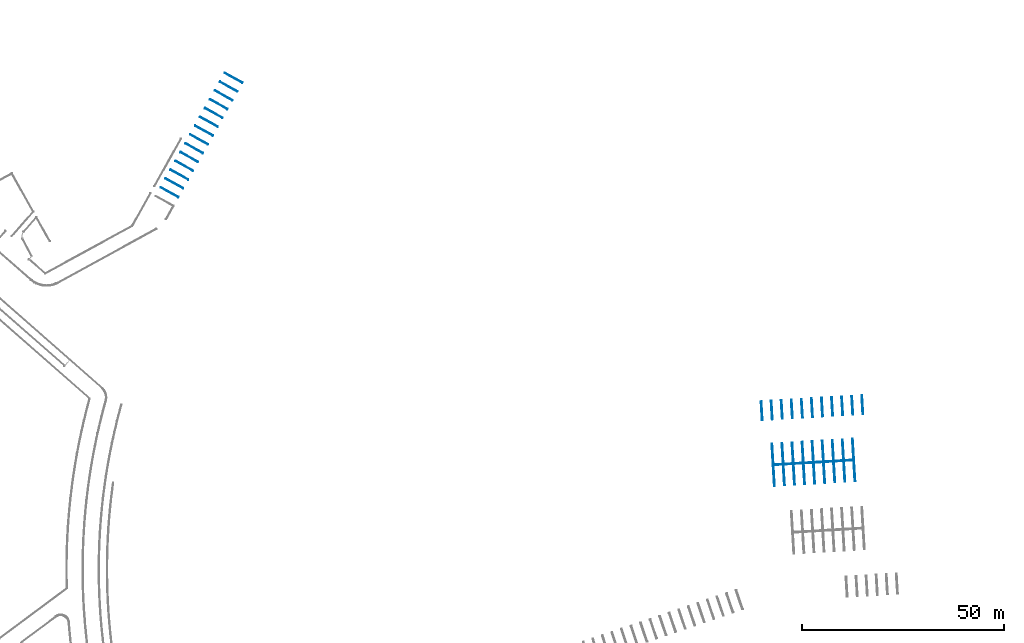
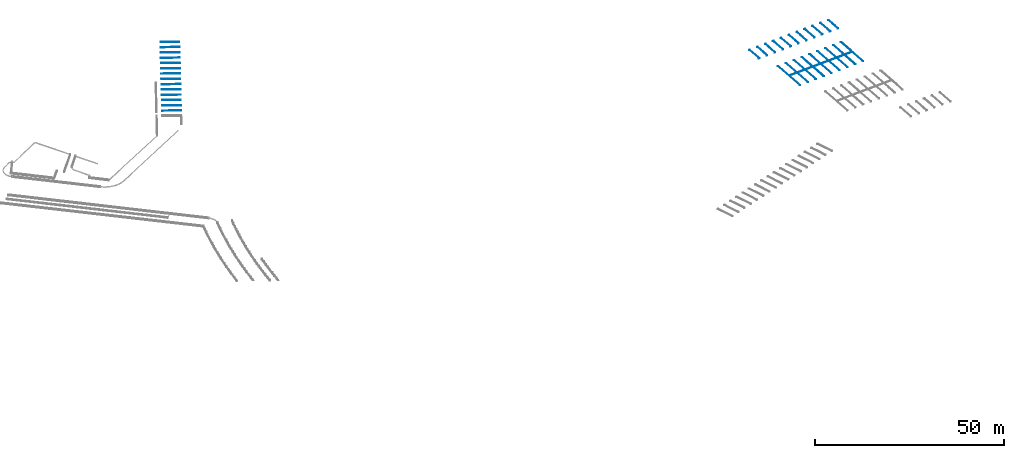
# One storey, part 14 of 24: 35 walls.
"""IFC2X3 building model written with IfcOpenShell, lengths in millimetres."""

import ifcopenshell
import ifcopenshell.guid

model = None  # the IFC model being written
_history = None  # IfcOwnerHistory: only IFC2X3 demands one
_inside = {}  # id of a spatial element -> (the spatial element, [elements in it])
_under = {}  # id of a project, library or spatial element -> (it, [spatial elements below it])
_declared = {}  # id of a project -> (the project, [libraries it declares])
_typed = {}  # id of a type object -> (the type object, [elements of that type])
_made_of = {}  # id of a material, layer set ... -> (it, [elements and type objects made of it])


def new_model(schema):
    """Start an empty IFC model of exactly this schema.

    Asked for "IFC4X3", IfcOpenShell would pick the latest addendum, in which some entities
    have other attributes; the version numbers below select the first issue.
    IFC2X3 requires an IfcOwnerHistory on every rooted entity: one is made here for all.
    """
    global model, _history
    if schema == "IFC4X3":
        model = ifcopenshell.file(schema_version=(4, 3, 0, 0))
    else:
        model = ifcopenshell.file(schema=schema)
    _inside.clear()
    _under.clear()
    _declared.clear()
    _typed.clear()
    _made_of.clear()
    _history = None
    if model.schema == "IFC2X3":
        org = make("IfcOrganization", Name="unknown")
        user = make(
            "IfcPersonAndOrganization",
            ThePerson=make("IfcPerson", FamilyName="unknown"),
            TheOrganization=org,
        )
        app = make(
            "IfcApplication",
            ApplicationDeveloper=org,
            Version="unknown",
            ApplicationFullName="unknown",
            ApplicationIdentifier="unknown",
        )
        _history = make(
            "IfcOwnerHistory",
            OwningUser=user,
            OwningApplication=app,
            ChangeAction="ADDED",
            CreationDate=0,
        )
    return model


def make(cls, **values):
    """One entity of the class cls with the attributes given. An attribute that is None is left unset."""
    return model.create_entity(
        cls, **{name: value for name, value in values.items() if value is not None}
    )


def entity(cls, *values):
    """Any entity or typed value of the class cls, its attributes in the order of the schema. None: left unset."""
    e = model.create_entity(cls)
    for i, value in enumerate(values):
        if value is not None:
            e[i] = value
    return e


def rooted(cls, **values):
    """An entity with a GlobalId (a new one), such as an element, a storey or a relation."""
    return make(cls, GlobalId=ifcopenshell.guid.new(), OwnerHistory=_history, **values)


def si_unit(unit_type, name, prefix=None):
    """IfcSIUnit, for example si_unit("LENGTHUNIT", "METRE", prefix="MILLI")."""
    return make("IfcSIUnit", UnitType=unit_type, Prefix=prefix, Name=name)


def converted_unit(unit_type, name, factor, base, dimensions=None, offset=None):
    """IfcConversionBasedUnit, such as the inch: factor (a typed value) times the base unit."""
    return make(
        "IfcConversionBasedUnit"
        if offset is None
        else "IfcConversionBasedUnitWithOffset",
        ConversionOffset=offset,
        Dimensions=None
        if dimensions is None
        else entity("IfcDimensionalExponents", *dimensions),
        UnitType=unit_type,
        Name=name,
        ConversionFactor=make(
            "IfcMeasureWithUnit", ValueComponent=factor, UnitComponent=base
        ),
    )


def derived_unit(unit_type, elements):
    """IfcDerivedUnit: a product of units, each with its exponent."""
    return make(
        "IfcDerivedUnit",
        Elements=[
            make("IfcDerivedUnitElement", Unit=unit, Exponent=power)
            for unit, power in elements
        ],
        UnitType=unit_type,
    )


def assignment(units):
    """IfcUnitAssignment: the units of a project."""
    return None if units is None else make("IfcUnitAssignment", Units=units)


def point(xyz):
    """IfcCartesianPoint."""
    return None if xyz is None else make("IfcCartesianPoint", Coordinates=xyz)


def direction(xyz):
    """IfcDirection."""
    return None if xyz is None else make("IfcDirection", DirectionRatios=xyz)


def frame(location, z_axis=None, x_axis=None):
    """IfcAxis2Placement3D, a coordinate frame: its origin and axes. An axis left out is left unset."""
    return make(
        "IfcAxis2Placement3D",
        Location=point(location),
        Axis=direction(z_axis),
        RefDirection=direction(x_axis),
    )


def frame_2d(location, x_axis=None):
    """IfcAxis2Placement2D, a coordinate frame in the plane: its origin and x axis."""
    return make(
        "IfcAxis2Placement2D", Location=point(location), RefDirection=direction(x_axis)
    )


def origin():
    """The frame at (0, 0, 0) with its axes left unset."""
    return frame((0.0, 0.0, 0.0))


def origin_2d_with_axis():
    """The frame at (0, 0) in the plane with the x axis (1, 0) written out."""
    return frame_2d((0.0, 0.0), x_axis=(1.0, 0.0))


def place(relative_to, where):
    """IfcLocalPlacement: puts the frame where relative to a parent placement (None: the world)."""
    return make(
        "IfcLocalPlacement", PlacementRelTo=relative_to, RelativePlacement=where
    )


def context(
    kind, dimensions, precision=None, world=None, true_north=None, identifier=None
):
    """IfcGeometricRepresentationContext, for example the 3D "Model" context."""
    return make(
        "IfcGeometricRepresentationContext",
        ContextIdentifier=identifier,
        ContextType=kind,
        CoordinateSpaceDimension=dimensions,
        Precision=precision,
        WorldCoordinateSystem=world,
        TrueNorth=true_north,
    )


def subcontext(parent, identifier, kind, view, scale=None):
    """IfcGeometricRepresentationSubContext, for example "Body" below "Model"."""
    return make(
        "IfcGeometricRepresentationSubContext",
        ContextIdentifier=identifier,
        ContextType=kind,
        ParentContext=parent,
        TargetScale=scale,
        TargetView=view,
    )


def project(units=None, contexts=None):
    """IfcProject with its units and contexts."""
    return rooted(
        "IfcProject",
        Name="project",
        RepresentationContexts=contexts,
        UnitsInContext=assignment(units),
    )


def spatial(cls, under=None, at=None, **own):
    """A site, building, storey or space (cls), placed at a placement, below another one or the project."""
    s = rooted(cls, ObjectPlacement=at, **own)
    if under is not None:
        _under.setdefault(under.id(), (under, []))[1].append(s)
    return s


def profile(cls, at=None, kind="AREA", **sizes):
    """A parametric profile (cls). Its sizes go by their IFC names, for example OverallWidth=200.0."""
    return make(cls, ProfileType=kind, Position=at, **sizes)


def rectangle(**sizes):
    """IfcRectangleProfileDef."""
    return profile("IfcRectangleProfileDef", **sizes)


def extrude(swept, where, along, depth):
    """IfcExtrudedAreaSolid: the profile swept, set in the frame where, extruded along a direction by depth."""
    return make(
        "IfcExtrudedAreaSolid",
        SweptArea=swept,
        Position=where,
        ExtrudedDirection=direction(along),
        Depth=depth,
    )


def shape(context_of_items, identifier, shape_type, items):
    """IfcShapeRepresentation: the items that make up one representation, for example the "Body"."""
    return make(
        "IfcShapeRepresentation",
        ContextOfItems=context_of_items,
        RepresentationIdentifier=identifier,
        RepresentationType=shape_type,
        Items=items,
    )


def material(Name=None, Category=None):
    """IfcMaterial."""
    return make("IfcMaterial", Name=Name, Category=Category)


def made_of(thing, what):
    """Note that an element or type object is made of a material, layer set ...; save() writes the relation."""
    if what is not None:
        _made_of.setdefault(what.id(), (what, []))[1].append(thing)
    return thing


def type_object(cls, material=None, **own):
    """A type object (cls), such as IfcWallType, which elements share."""
    return made_of(rooted(cls, **own), material)


def element(
    cls,
    number,
    at=None,
    inside=None,
    cuts=None,
    type_object=None,
    material=None,
    context=None,
    identifier="Body",
    shape_type=None,
    held_by="IfcProductDefinitionShape",
    body=None,
    shapes=None,
    **own,
):
    """One element of the class cls, such as IfcWall. Its Tag is "e" and its number.

    at: its placement. inside: the storey or other place that contains it. cuts: it is an
    opening in that element (IfcRelVoidsElement). A single representation is given by context,
    identifier, shape_type and body (its items); several are given by shapes. held_by: the class
    of the entity that holds the representations. save() writes the other relations.
    """
    e = rooted(cls, Tag="e%d" % number, ObjectPlacement=at, **own)
    if body is not None:
        shapes = [shape(context, identifier, shape_type, body)]
    if shapes is not None:
        e.Representation = make(held_by, Representations=shapes)
    if inside is not None:
        _inside.setdefault(inside.id(), (inside, []))[1].append(e)
    if cuts is not None:
        rooted(
            "IfcRelVoidsElement", RelatingBuildingElement=cuts, RelatedOpeningElement=e
        )
    if type_object is not None:
        _typed.setdefault(type_object.id(), (type_object, []))[1].append(e)
    return made_of(e, material)


def aggregate(whole, parts):
    """IfcRelAggregates: a whole, such as a stair, and the parts it consists of."""
    return rooted("IfcRelAggregates", RelatingObject=whole, RelatedObjects=parts)


def save(model, path):
    """Write the relations noted so far, then the file.

    IfcRelAggregates (storeys below a building ...), IfcRelContainedInSpatialStructure (elements
    in a storey), IfcRelDefinesByType, IfcRelAssociatesMaterial and IfcRelDeclares: one each for
    every whole, place, type object, material and project.
    """
    for whole, parts in _under.values():
        aggregate(whole, parts)
    for where, things in _inside.values():
        rooted(
            "IfcRelContainedInSpatialStructure",
            RelatedElements=things,
            RelatingStructure=where,
        )
    for kind, things in _typed.values():
        rooted("IfcRelDefinesByType", RelatedObjects=things, RelatingType=kind)
    for what, things in _made_of.values():
        rooted("IfcRelAssociatesMaterial", RelatedObjects=things, RelatingMaterial=what)
    for by, libraries in _declared.values():
        rooted("IfcRelDeclares", RelatingContext=by, RelatedDefinitions=libraries)
    model.write(path)


model = new_model("IFC2X3")

# Units and contexts
model_context = context("Model", 3, precision=0.01, world=origin(), true_north=direction((6.123031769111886e-17, 1.0)))
body_context = subcontext(model_context, "Body", "Model", "MODEL_VIEW")
ifc_project = project(units=[si_unit("LENGTHUNIT", "METRE", prefix="MILLI"), si_unit("AREAUNIT", "SQUARE_METRE"), si_unit("VOLUMEUNIT", "CUBIC_METRE"), converted_unit("PLANEANGLEUNIT", "DEGREE", entity("IfcRatioMeasure", 0.017453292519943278), si_unit("PLANEANGLEUNIT", "RADIAN"), dimensions=[0, 0, 0, 0, 0, 0, 0]), si_unit("MASSUNIT", "GRAM", prefix="KILO"), derived_unit("MASSDENSITYUNIT", [(si_unit("MASSUNIT", "GRAM", prefix="KILO"), 1), (si_unit("LENGTHUNIT", "METRE"), -3)]), derived_unit("MOMENTOFINERTIAUNIT", [(si_unit("LENGTHUNIT", "METRE"), 4)]), si_unit("TIMEUNIT", "SECOND"), si_unit("FREQUENCYUNIT", "HERTZ"), si_unit("THERMODYNAMICTEMPERATUREUNIT", "DEGREE_CELSIUS"), derived_unit("THERMALTRANSMITTANCEUNIT", [(si_unit("MASSUNIT", "GRAM", prefix="KILO"), 1), (si_unit("THERMODYNAMICTEMPERATUREUNIT", "KELVIN"), -1), (si_unit("TIMEUNIT", "SECOND"), -3)]), derived_unit("THERMALCONDUCTANCEUNIT", [(si_unit("MASSUNIT", "GRAM", prefix="KILO"), 1), (si_unit("LENGTHUNIT", "METRE"), 1), (si_unit("THERMODYNAMICTEMPERATUREUNIT", "KELVIN"), -1), (si_unit("TIMEUNIT", "SECOND"), -3)]), derived_unit("VOLUMETRICFLOWRATEUNIT", [(si_unit("LENGTHUNIT", "METRE"), 3), (si_unit("TIMEUNIT", "SECOND"), -1)]), derived_unit("MASSFLOWRATEUNIT", [(si_unit("MASSUNIT", "GRAM", prefix="KILO"), 1), (si_unit("TIMEUNIT", "SECOND"), -1)]), derived_unit("ROTATIONALFREQUENCYUNIT", [(si_unit("TIMEUNIT", "SECOND"), -1)]), si_unit("ELECTRICCURRENTUNIT", "AMPERE"), si_unit("ELECTRICVOLTAGEUNIT", "VOLT"), si_unit("POWERUNIT", "WATT"), converted_unit("FORCEUNIT", "KIP", entity("IfcRatioMeasure", 2.088543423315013e-05), si_unit("FORCEUNIT", "NEWTON"), dimensions=[1, 1, -2, 0, 0, 0, 0]), si_unit("ILLUMINANCEUNIT", "LUX"), si_unit("LUMINOUSFLUXUNIT", "LUMEN"), si_unit("LUMINOUSINTENSITYUNIT", "CANDELA"), derived_unit("USERDEFINED", [(si_unit("MASSUNIT", "GRAM", prefix="KILO"), -1), (si_unit("LENGTHUNIT", "METRE"), -2), (si_unit("TIMEUNIT", "SECOND"), 3), (si_unit("LUMINOUSFLUXUNIT", "LUMEN"), 1)]), derived_unit("USERDEFINED", [(si_unit("MASSUNIT", "GRAM", prefix="KILO"), 1), (si_unit("LENGTHUNIT", "METRE"), 3), (si_unit("TIMEUNIT", "SECOND"), -3), (si_unit("ELECTRICCURRENTUNIT", "AMPERE"), -2)]), derived_unit("USERDEFINED", [(si_unit("LENGTHUNIT", "METRE"), 2), (si_unit("TIMEUNIT", "SECOND"), -2)]), derived_unit("SOUNDPOWERUNIT", [(si_unit("MASSUNIT", "GRAM", prefix="KILO"), 1), (si_unit("LENGTHUNIT", "METRE"), 2), (si_unit("TIMEUNIT", "SECOND"), -3)]), derived_unit("SOUNDPRESSUREUNIT", [(si_unit("MASSUNIT", "GRAM", prefix="KILO"), 1), (si_unit("LENGTHUNIT", "METRE"), -1), (si_unit("TIMEUNIT", "SECOND"), -2)]), derived_unit("LINEARVELOCITYUNIT", [(si_unit("LENGTHUNIT", "METRE"), 1), (si_unit("TIMEUNIT", "SECOND"), -1)]), si_unit("PRESSUREUNIT", "PASCAL"), derived_unit("USERDEFINED", [(si_unit("LENGTHUNIT", "METRE"), -2), (si_unit("MASSUNIT", "GRAM", prefix="KILO"), 1), (si_unit("TIMEUNIT", "SECOND"), -2)]), derived_unit("LINEARFORCEUNIT", [(si_unit("MASSUNIT", "GRAM", prefix="KILO"), 1), (si_unit("LENGTHUNIT", "METRE"), 1), (si_unit("TIMEUNIT", "SECOND"), -2), (si_unit("LENGTHUNIT", "METRE"), -1)]), derived_unit("PLANARFORCEUNIT", [(si_unit("MASSUNIT", "GRAM", prefix="KILO"), 1), (si_unit("LENGTHUNIT", "METRE"), 1), (si_unit("TIMEUNIT", "SECOND"), -2), (si_unit("LENGTHUNIT", "METRE"), -2)]), derived_unit("SPECIFICHEATCAPACITYUNIT", [(si_unit("LENGTHUNIT", "METRE"), 2), (si_unit("TIMEUNIT", "SECOND"), -2), (si_unit("THERMODYNAMICTEMPERATUREUNIT", "KELVIN"), -1)]), derived_unit("VAPORPERMEABILITYUNIT", [(si_unit("TIMEUNIT", "SECOND"), 1), (si_unit("LENGTHUNIT", "METRE"), -1)]), derived_unit("DYNAMICVISCOSITYUNIT", [(si_unit("MASSUNIT", "GRAM", prefix="KILO"), 1), (si_unit("LENGTHUNIT", "METRE"), -1), (si_unit("TIMEUNIT", "SECOND"), -1)]), derived_unit("THERMALEXPANSIONCOEFFICIENTUNIT", [(si_unit("THERMODYNAMICTEMPERATUREUNIT", "KELVIN"), -1)])], contexts=[model_context])

# Site, building, storey
site_placement = place(None, frame((0.0, 0.0, 0.0), z_axis=(0.0, 0.0, 1.0), x_axis=(0.8191520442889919, 0.5735764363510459, 0.0)))
site = spatial("IfcSite", under=ifc_project, at=site_placement, Name="Default", CompositionType="ELEMENT")
building_placement = place(site_placement, origin())
building = spatial("IfcBuilding", under=site, at=building_placement, CompositionType="ELEMENT")
storey_placement = place(building_placement, frame((0.0, 0.0, -1150.0)))
storey = spatial("IfcBuildingStorey", under=building, at=storey_placement, Name="6.EG KH -1.15", CompositionType="ELEMENT", Elevation=-1150.0000000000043)

# Walls
ifc_material = material(Name="road_markirovka")
wall_type_1 = type_object("IfcWallType", Name="05", PredefinedType="NOTDEFINED", material=ifc_material)
wall_1_placement = place(storey_placement, frame((-55568.09322253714, 154215.36683652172, 240.0), z_axis=(0.0, 0.0, 1.0), x_axis=(0.0, 1.0, 0.0)))
element("IfcWall", 1, at=wall_1_placement, inside=storey, type_object=wall_type_1, material=ifc_material, Name="05:05", ObjectType="05:05", context=body_context, shape_type="SweptSolid", body=[
    extrude(rectangle(XDim=200.00000000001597, YDim=5000.000000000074, at=frame_2d((-7.645439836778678e-12, -5.9117155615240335e-12), x_axis=(1.0, 0.0))), frame((2294.368159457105, -1178.003194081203, 0.0), z_axis=(0.0, 0.0, 1.0), x_axis=(-0.4351876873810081, 0.900339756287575, 0.0)), (0.0, 0.0, 1.0), 9.999999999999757),
])
wall_type_2 = type_object("IfcWallType", Name="05", PredefinedType="NOTDEFINED", material=ifc_material)
wall_2_placement = place(storey_placement, frame((-60069.79200397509, 152039.42839961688, 330.0), z_axis=(0.0, 0.0, 1.0), x_axis=(0.0, 1.0, 0.0)))
element("IfcWall", 2, at=wall_2_placement, inside=storey, type_object=wall_type_2, material=ifc_material, Name="05 203250:05 203250", ObjectType="05 203250:05 203250", context=body_context, shape_type="SweptSolid", body=[
    extrude(rectangle(XDim=200.00000000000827, YDim=5000.000000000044, at=frame_2d((-7.716494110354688e-12, -5.9117155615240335e-12), x_axis=(1.0, 0.0))), frame((2294.3681594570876, -1178.0031940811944, 0.0), z_axis=(0.0, 0.0, 1.0), x_axis=(-0.4351876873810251, 0.9003397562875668, 0.0)), (0.0, 0.0, 1.0), 9.999999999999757),
])
wall_type_3 = type_object("IfcWallType", Name="05", PredefinedType="NOTDEFINED", material=ifc_material)
wall_3_placement = place(storey_placement, frame((-66822.34017613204, 148775.52074425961, 450.0), z_axis=(0.0, 0.0, 1.0), x_axis=(0.0, 1.0, 0.0)))
element("IfcWall", 3, at=wall_3_placement, inside=storey, type_object=wall_type_3, material=ifc_material, Name="05 203252:05 203252", ObjectType="05 203252:05 203252", context=body_context, shape_type="SweptSolid", body=[
    extrude(rectangle(XDim=199.99999999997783, YDim=5000.000000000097, at=frame_2d((1.1439738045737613e-11, 1.3415046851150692e-11), x_axis=(1.0, 0.0))), frame((2294.3681594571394, -1178.003194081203, 0.0), z_axis=(0.0, 0.0, 1.0), x_axis=(-0.43518768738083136, 0.9003397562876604, 0.0)), (0.0, 0.0, 1.0), 9.999999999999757),
])
wall_type_4 = type_object("IfcWallType", Name="05", PredefinedType="NOTDEFINED", material=ifc_material)
wall_4_placement = place(storey_placement, frame((-57818.94261325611, 153127.39761806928, 295.0), z_axis=(0.0, 0.0, 1.0), x_axis=(0.0, 1.0, 0.0)))
element("IfcWall", 4, at=wall_4_placement, inside=storey, type_object=wall_type_4, material=ifc_material, Name="05 203253:05 203253", ObjectType="05 203253:05 203253", context=body_context, shape_type="SweptSolid", body=[
    extrude(rectangle(XDim=199.9999999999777, YDim=5000.000000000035, at=frame_2d((7.510436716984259e-12, 1.546140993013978e-11), x_axis=(1.0, 0.0))), frame((2294.368159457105, -1178.0031940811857, 0.0), z_axis=(0.0, 0.0, 1.0), x_axis=(-0.4351876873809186, 0.9003397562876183, 0.0)), (0.0, 0.0, 1.0), 9.999999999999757),
])
wall_type_5 = type_object("IfcWallType", Name="05", PredefinedType="NOTDEFINED", material=ifc_material)
wall_5_placement = place(storey_placement, frame((-64571.49078541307, 149863.48996271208, 420.0), z_axis=(0.0, 0.0, 1.0), x_axis=(0.0, 1.0, 0.0)))
element("IfcWall", 5, at=wall_5_placement, inside=storey, type_object=wall_type_5, material=ifc_material, Name="05 203255:05 203255", ObjectType="05 203255:05 203255", context=body_context, shape_type="SweptSolid", body=[
    extrude(rectangle(XDim=199.9999999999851, YDim=5000.000000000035, at=frame_2d((1.3500311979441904e-13, -9.777068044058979e-12), x_axis=(1.0, 0.0))), frame((2294.3681594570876, -1178.0031940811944, 0.0), z_axis=(0.0, 0.0, 1.0), x_axis=(-0.4351876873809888, 0.9003397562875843, 0.0)), (0.0, 0.0, 1.0), 9.999999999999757),
])
wall_type_6 = type_object("IfcWallType", Name="05", PredefinedType="NOTDEFINED", material=ifc_material)
wall_6_placement = place(storey_placement, frame((-53317.24383181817, 155303.3360549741, 205.0), z_axis=(0.0, 0.0, 1.0), x_axis=(0.0, 1.0, 0.0)))
element("IfcWall", 6, at=wall_6_placement, inside=storey, type_object=wall_type_6, material=ifc_material, Name="05 203257:05 203257", ObjectType="05 203257:05 203257", context=body_context, shape_type="SweptSolid", body=[
    extrude(rectangle(XDim=200.00000000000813, YDim=5000.000000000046, at=frame_2d((3.723243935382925e-12, 1.7280399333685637e-11), x_axis=(1.0, 0.0))), frame((2294.368159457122, -1178.003194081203, 0.0), z_axis=(0.0, 0.0, 1.0), x_axis=(-0.4351876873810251, 0.9003397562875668, 0.0)), (0.0, 0.0, 1.0), 9.999999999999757),
])
wall_type_7 = type_object("IfcWallType", Name="05", PredefinedType="NOTDEFINED", material=ifc_material)
wall_7_placement = place(storey_placement, frame((-62320.641394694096, 150951.45918116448, 365.0), z_axis=(0.0, 0.0, 1.0), x_axis=(0.0, 1.0, 0.0)))
element("IfcWall", 7, at=wall_7_placement, inside=storey, type_object=wall_type_7, material=ifc_material, Name="05 203261:05 203261", ObjectType="05 203261:05 203261", context=body_context, shape_type="SweptSolid", body=[
    extrude(rectangle(XDim=200.00000000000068, YDim=5000.000000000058, at=frame_2d((3.929301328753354e-12, -1.8189894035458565e-12), x_axis=(1.0, 0.0))), frame((2294.368159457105, -1178.003194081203, 0.0), z_axis=(0.0, 0.0, 1.0), x_axis=(-0.43518768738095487, 0.9003397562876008, 0.0)), (0.0, 0.0, 1.0), 9.999999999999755),
])
wall_type_8 = type_object("IfcWallType", Name="06", PredefinedType="NOTDEFINED", material=ifc_material)
wall_8_placement = place(storey_placement, frame((43548.62154374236, 7412.608353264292, 150.0), z_axis=(0.0, 0.0, 1.0), x_axis=(0.0, 1.0, 0.0)))
element("IfcWall", 8, at=wall_8_placement, inside=storey, type_object=wall_type_8, material=ifc_material, Name="06 203730:06 203730", ObjectType="06 203730:06 203730", context=body_context, shape_type="SweptSolid", body=[
    extrude(rectangle(XDim=200.0000000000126, YDim=4629.2546086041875, at=frame_2d((-2.7000623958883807e-13, 6.821210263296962e-13), x_axis=(1.0, 0.0))), frame((2024.625016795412, -1296.6489613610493, 0.0), z_axis=(0.0, 0.0, 1.0), x_axis=(0.5233841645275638, 0.8520968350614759, 0.0)), (0.0, 0.0, 1.0), 9.999999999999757),
])
wall_type_9 = type_object("IfcWallType", Name="06", PredefinedType="NOTDEFINED", material=ifc_material)
wall_9_placement = place(storey_placement, frame((41418.3794560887, 8721.068764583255, 150.0), z_axis=(0.0, 0.0, 1.0), x_axis=(0.0, 1.0, 0.0)))
element("IfcWall", 9, at=wall_9_placement, inside=storey, type_object=wall_type_9, material=ifc_material, Name="06 203731:06 203731", ObjectType="06 203731:06 203731", context=body_context, shape_type="SweptSolid", body=[
    extrude(rectangle(XDim=200.0000000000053, YDim=4629.2546086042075, at=origin_2d_with_axis()), frame((2024.6250167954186, -1296.6489613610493, 0.0), z_axis=(0.0, 0.0, 1.0), x_axis=(0.5233841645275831, 0.852096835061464, 0.0)), (0.0, 0.0, 1.0), 9.999999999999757),
])
wall_type_10 = type_object("IfcWallType", Name="06", PredefinedType="NOTDEFINED", material=ifc_material)
wall_10_placement = place(storey_placement, frame((37157.8952807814, 11337.989587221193, 150.0), z_axis=(0.0, 0.0, 1.0), x_axis=(0.0, 1.0, 0.0)))
element("IfcWall", 10, at=wall_10_placement, inside=storey, type_object=wall_type_10, material=ifc_material, Name="06 203736:06 203736", ObjectType="06 203736:06 203736", context=body_context, shape_type="SweptSolid", body=[
    extrude(rectangle(XDim=199.99999999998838, YDim=4629.254608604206, at=frame_2d((4.263256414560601e-12, 1.3642420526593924e-12), x_axis=(1.0, 0.0))), frame((2024.6250167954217, -1296.6489613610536, 0.0), z_axis=(0.0, 0.0, 1.0), x_axis=(0.523384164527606, 0.8520968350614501, 0.0)), (0.0, 0.0, 1.0), 9.999999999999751),
])
wall_type_11 = type_object("IfcWallType", Name="06", PredefinedType="NOTDEFINED", material=ifc_material)
wall_11_placement = place(storey_placement, frame((39288.13736843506, 10029.52917590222, 150.0), z_axis=(0.0, 0.0, 1.0), x_axis=(0.0, 1.0, 0.0)))
element("IfcWall", 11, at=wall_11_placement, inside=storey, type_object=wall_type_11, material=ifc_material, Name="06 203738:06 203738", ObjectType="06 203738:06 203738", context=body_context, shape_type="SweptSolid", body=[
    extrude(rectangle(XDim=199.99999999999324, YDim=4629.2546086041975, at=frame_2d((1.1510792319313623e-12, -1.8189894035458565e-12), x_axis=(1.0, 0.0))), frame((2024.6250167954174, -1296.6489613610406, 0.0), z_axis=(0.0, 0.0, 1.0), x_axis=(0.523384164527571, 0.8520968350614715, 0.0)), (0.0, 0.0, 1.0), 9.999999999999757),
])
wall_type_12 = type_object("IfcWallType", Name="06", PredefinedType="NOTDEFINED", material=ifc_material)
wall_12_placement = place(storey_placement, frame((35027.65319312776, 12646.44999854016, 150.0), z_axis=(0.0, 0.0, 1.0), x_axis=(0.0, 1.0, 0.0)))
element("IfcWall", 12, at=wall_12_placement, inside=storey, type_object=wall_type_12, material=ifc_material, Name="06 203739:06 203739", ObjectType="06 203739:06 203739", context=body_context, shape_type="SweptSolid", body=[
    extrude(rectangle(XDim=199.99999999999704, YDim=4629.2546086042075, at=frame_2d((-1.2860823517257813e-12, -2.2737367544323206e-12), x_axis=(1.0, 0.0))), frame((2024.6250167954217, -1296.648961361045, 0.0), z_axis=(0.0, 0.0, 1.0), x_axis=(0.5233841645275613, 0.8520968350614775, 0.0)), (0.0, 0.0, 1.0), 9.999999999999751),
])
wall_type_13 = type_object("IfcWallType", Name="06", PredefinedType="NOTDEFINED", material=ifc_material)
wall_13_placement = place(storey_placement, frame((32897.41110547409, 13954.91040985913, 150.0), z_axis=(0.0, 0.0, 1.0), x_axis=(0.0, 1.0, 0.0)))
element("IfcWall", 13, at=wall_13_placement, inside=storey, type_object=wall_type_13, material=ifc_material, Name="06 203742:06 203742", ObjectType="06 203742:06 203742", context=body_context, shape_type="SweptSolid", body=[
    extrude(rectangle(XDim=200.0000000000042, YDim=4629.254608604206, at=frame_2d((-2.4371615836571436e-12, 0.0), x_axis=(1.0, 0.0))), frame((2024.6250167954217, -1296.648961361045, 0.0), z_axis=(0.0, 0.0, 1.0), x_axis=(0.5233841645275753, 0.8520968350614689, 0.0)), (0.0, 0.0, 1.0), 9.999999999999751),
])
wall_type_14 = type_object("IfcWallType", Name="06", PredefinedType="NOTDEFINED", material=ifc_material)
wall_14_placement = place(storey_placement, frame((28636.926930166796, 16571.83123249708, 150.0), z_axis=(0.0, 0.0, 1.0), x_axis=(0.0, 1.0, 0.0)))
element("IfcWall", 14, at=wall_14_placement, inside=storey, type_object=wall_type_14, material=ifc_material, Name="06 203743:06 203743", ObjectType="06 203743:06 203743", context=body_context, shape_type="SweptSolid", body=[
    extrude(rectangle(XDim=200.00000000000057, YDim=4629.254608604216, at=frame_2d((2.3661073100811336e-12, 4.547473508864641e-13), x_axis=(1.0, 0.0))), frame((2024.625016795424, -1296.6489613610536, 0.0), z_axis=(0.0, 0.0, 1.0), x_axis=(0.5233841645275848, 0.8520968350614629, 0.0)), (0.0, 0.0, 1.0), 9.999999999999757),
])
wall_type_15 = type_object("IfcWallType", Name="06", PredefinedType="NOTDEFINED", material=ifc_material)
wall_15_placement = place(storey_placement, frame((26506.684842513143, 17880.291643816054, 150.0), z_axis=(0.0, 0.0, 1.0), x_axis=(0.0, 1.0, 0.0)))
element("IfcWall", 15, at=wall_15_placement, inside=storey, type_object=wall_type_15, material=ifc_material, Name="06 203748:06 203748", ObjectType="06 203748:06 203748", context=body_context, shape_type="SweptSolid", body=[
    extrude(rectangle(XDim=200.00000000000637, YDim=4629.254608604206, at=frame_2d((-3.0482283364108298e-12, 6.821210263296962e-13), x_axis=(1.0, 0.0))), frame((2024.6250167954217, -1296.648961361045, 0.0), z_axis=(0.0, 0.0, 1.0), x_axis=(0.523384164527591, 0.8520968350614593, 0.0)), (0.0, 0.0, 1.0), 9.999999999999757),
])
wall_type_16 = type_object("IfcWallType", Name="06", PredefinedType="NOTDEFINED", material=ifc_material)
wall_16_placement = place(storey_placement, frame((30767.169017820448, 15263.370821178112, 150.0), z_axis=(0.0, 0.0, 1.0), x_axis=(0.0, 1.0, 0.0)))
element("IfcWall", 16, at=wall_16_placement, inside=storey, type_object=wall_type_16, material=ifc_material, Name="06 203749:06 203749", ObjectType="06 203749:06 203749", context=body_context, shape_type="SweptSolid", body=[
    extrude(rectangle(XDim=200.0000000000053, YDim=4629.254608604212, at=frame_2d((-3.112177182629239e-12, -3.183231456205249e-12), x_axis=(1.0, 0.0))), frame((2024.6250167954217, -1296.648961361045, 0.0), z_axis=(0.0, 0.0, 1.0), x_axis=(0.5233841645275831, 0.852096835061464, 0.0)), (0.0, 0.0, 1.0), 9.999999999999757),
])
wall_type_17 = type_object("IfcWallType", Name="06", PredefinedType="NOTDEFINED", material=ifc_material)
wall_17_placement = place(storey_placement, frame((24376.442754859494, 19188.752055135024, 150.0), z_axis=(0.0, 0.0, 1.0), x_axis=(0.0, 1.0, 0.0)))
element("IfcWall", 17, at=wall_17_placement, inside=storey, type_object=wall_type_17, material=ifc_material, Name="06 203750:06 203750", ObjectType="06 203750:06 203750", context=body_context, shape_type="SweptSolid", body=[
    extrude(rectangle(XDim=200.00000000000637, YDim=4629.254608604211, at=frame_2d((-5.400124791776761e-13, 1.1368683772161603e-12), x_axis=(1.0, 0.0))), frame((2024.625016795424, -1296.6489613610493, 0.0), z_axis=(0.0, 0.0, 1.0), x_axis=(0.523384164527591, 0.8520968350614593, 0.0)), (0.0, 0.0, 1.0), 9.999999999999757),
])
wall_type_18 = type_object("IfcWallType", Name="06", PredefinedType="NOTDEFINED", material=ifc_material)
wall_18_placement = place(storey_placement, frame((22246.200667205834, 20497.21246645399, 150.0), z_axis=(0.0, 0.0, 1.0), x_axis=(0.0, 1.0, 0.0)))
element("IfcWall", 18, at=wall_18_placement, inside=storey, type_object=wall_type_18, material=ifc_material, Name="06 203753:06 203753", ObjectType="06 203753:06 203753", context=body_context, shape_type="SweptSolid", body=[
    extrude(rectangle(XDim=200.0000000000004, YDim=4629.254608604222, at=origin_2d_with_axis()), frame((2024.625016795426, -1296.6489613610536, 0.0), z_axis=(0.0, 0.0, 1.0), x_axis=(0.5233841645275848, 0.8520968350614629, 0.0)), (0.0, 0.0, 1.0), 9.999999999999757),
])
wall_type_19 = type_object("IfcWallType", Name="04", PredefinedType="NOTDEFINED", material=ifc_material)
wall_19_placement = place(storey_placement, frame((18183.11532438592, -605.7176694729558, 350.0)))
element("IfcWall", 19, at=wall_19_placement, inside=storey, type_object=wall_type_19, material=ifc_material, Name="04 203756:04 203756", ObjectType="04 203756:04 203756", context=body_context, shape_type="SweptSolid", body=[
    extrude(rectangle(XDim=200.00000000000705, YDim=19800.000000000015, at=frame_2d((-4.32720526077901e-12, -9.094947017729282e-13), x_axis=(1.0, 0.0))), frame((8520.968350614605, 5266.712912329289, 0.0), z_axis=(0.0, 0.0, 1.0), x_axis=(0.5233841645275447, 0.8520968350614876, 0.0)), (0.0, 0.0, 1.0), 9.999999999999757),
])
wall_type_20 = type_object("IfcWallType", Name="04", PredefinedType="NOTDEFINED", material=ifc_material)
wall_20_placement = place(storey_placement, frame((15350.138777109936, 5368.990087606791, 350.0), z_axis=(0.0, 0.0, 1.0), x_axis=(0.0, 1.0, 0.0)))
element("IfcWall", 20, at=wall_20_placement, inside=storey, type_object=wall_type_20, material=ifc_material, Name="04 203757:04 203757", ObjectType="04 203757:04 203757", context=body_context, shape_type="SweptSolid", body=[
    extrude(rectangle(XDim=200.0000000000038, YDim=10500.000000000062, at=frame_2d((-2.9771740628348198e-12, 9.094947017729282e-13), x_axis=(1.0, 0.0))), frame((4525.8468005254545, -2832.976547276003, 0.0), z_axis=(0.0, 0.0, 1.0), x_axis=(0.5233841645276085, 0.8520968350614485, 0.0)), (0.0, 0.0, 1.0), 9.999999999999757),
])
wall_type_21 = type_object("IfcWallType", Name="04", PredefinedType="NOTDEFINED", material=ifc_material)
wall_21_placement = place(storey_placement, frame((30261.833390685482, -3790.232791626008, 350.0), z_axis=(0.0, 0.0, 1.0), x_axis=(0.0, 1.0, 0.0)))
element("IfcWall", 21, at=wall_21_placement, inside=storey, type_object=wall_type_21, material=ifc_material, Name="04 203776:04 203776", ObjectType="04 203776:04 203776", context=body_context, shape_type="SweptSolid", body=[
    extrude(rectangle(XDim=200.00000000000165, YDim=10500.000000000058, at=frame_2d((1.8971491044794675e-12, 9.094947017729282e-13), x_axis=(1.0, 0.0))), frame((4525.846800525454, -2832.976547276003, 0.0), z_axis=(0.0, 0.0, 1.0), x_axis=(0.5233841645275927, 0.8520968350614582, 0.0)), (0.0, 0.0, 1.0), 9.999999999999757),
])
wall_type_22 = type_object("IfcWallType", Name="04", PredefinedType="NOTDEFINED", material=ifc_material)
wall_22_placement = place(storey_placement, frame((28131.591303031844, -2481.772380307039, 350.0), z_axis=(0.0, 0.0, 1.0), x_axis=(0.0, 1.0, 0.0)))
element("IfcWall", 22, at=wall_22_placement, inside=storey, type_object=wall_type_22, material=ifc_material, Name="04 203779:04 203779", ObjectType="04 203779:04 203779", context=body_context, shape_type="SweptSolid", body=[
    extrude(rectangle(XDim=200.00000000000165, YDim=10500.000000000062, at=frame_2d((-4.199307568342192e-12, -1.3642420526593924e-12), x_axis=(1.0, 0.0))), frame((4525.8468005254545, -2832.9765472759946, 0.0), z_axis=(0.0, 0.0, 1.0), x_axis=(0.5233841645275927, 0.8520968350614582, 0.0)), (0.0, 0.0, 1.0), 9.999999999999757),
])
wall_type_23 = type_object("IfcWallType", Name="04", PredefinedType="NOTDEFINED", material=ifc_material)
wall_23_placement = place(storey_placement, frame((26001.349215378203, -1173.3119689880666, 350.0), z_axis=(0.0, 0.0, 1.0), x_axis=(0.0, 1.0, 0.0)))
element("IfcWall", 23, at=wall_23_placement, inside=storey, type_object=wall_type_23, material=ifc_material, Name="04 203781:04 203781", ObjectType="04 203781:04 203781", context=body_context, shape_type="SweptSolid", body=[
    extrude(rectangle(XDim=199.99999999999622, YDim=10500.000000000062, at=frame_2d((-1.3500311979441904e-12, -2.2737367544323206e-12), x_axis=(1.0, 0.0))), frame((4525.8468005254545, -2832.976547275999, 0.0), z_axis=(0.0, 0.0, 1.0), x_axis=(0.5233841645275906, 0.8520968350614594, 0.0)), (0.0, 0.0, 1.0), 9.999999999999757),
])
wall_type_24 = type_object("IfcWallType", Name="04", PredefinedType="NOTDEFINED", material=ifc_material)
wall_24_placement = place(storey_placement, frame((32392.075478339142, -5098.693202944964, 350.0), z_axis=(0.0, 0.0, 1.0), x_axis=(0.0, 1.0, 0.0)))
element("IfcWall", 24, at=wall_24_placement, inside=storey, type_object=wall_type_24, material=ifc_material, Name="04 203784:04 203784", ObjectType="04 203784:04 203784", context=body_context, shape_type="SweptSolid", body=[
    extrude(rectangle(XDim=200.0000000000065, YDim=10500.000000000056, at=frame_2d((-2.7000623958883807e-13, 4.547473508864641e-13), x_axis=(1.0, 0.0))), frame((4525.846800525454, -2832.976547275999, 0.0), z_axis=(0.0, 0.0, 1.0), x_axis=(0.523384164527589, 0.8520968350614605, 0.0)), (0.0, 0.0, 1.0), 9.999999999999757),
])
wall_type_25 = type_object("IfcWallType", Name="04", PredefinedType="NOTDEFINED", material=ifc_material)
wall_25_placement = place(storey_placement, frame((23871.107127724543, 135.14844233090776, 350.0), z_axis=(0.0, 0.0, 1.0), x_axis=(0.0, 1.0, 0.0)))
element("IfcWall", 25, at=wall_25_placement, inside=storey, type_object=wall_type_25, material=ifc_material, Name="04 203785:04 203785", ObjectType="04 203785:04 203785", context=body_context, shape_type="SweptSolid", body=[
    extrude(rectangle(XDim=200.0000000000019, YDim=10500.000000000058, at=frame_2d((-1.0800249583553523e-12, 1.8189894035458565e-12), x_axis=(1.0, 0.0))), frame((4525.846800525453, -2832.976547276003, 0.0), z_axis=(0.0, 0.0, 1.0), x_axis=(0.5233841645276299, 0.8520968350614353, 0.0)), (0.0, 0.0, 1.0), 9.999999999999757),
])
wall_type_26 = type_object("IfcWallType", Name="04", PredefinedType="NOTDEFINED", material=ifc_material)
wall_26_placement = place(storey_placement, frame((19610.62295241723, 2752.0692649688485, 350.0), z_axis=(0.0, 0.0, 1.0), x_axis=(0.0, 1.0, 0.0)))
element("IfcWall", 26, at=wall_26_placement, inside=storey, type_object=wall_type_26, material=ifc_material, Name="04 203787:04 203787", ObjectType="04 203787:04 203787", context=body_context, shape_type="SweptSolid", body=[
    extrude(rectangle(XDim=199.99999999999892, YDim=10500.00000000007, at=frame_2d((2.1671553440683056e-12, 4.547473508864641e-13), x_axis=(1.0, 0.0))), frame((4525.846800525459, -2832.9765472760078, 0.0), z_axis=(0.0, 0.0, 1.0), x_axis=(0.5233841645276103, 0.8520968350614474, 0.0)), (0.0, 0.0, 1.0), 9.999999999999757),
])
wall_type_27 = type_object("IfcWallType", Name="04", PredefinedType="NOTDEFINED", material=ifc_material)
wall_27_placement = place(storey_placement, frame((21740.865040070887, 1443.6088536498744, 350.0), z_axis=(0.0, 0.0, 1.0), x_axis=(0.0, 1.0, 0.0)))
element("IfcWall", 27, at=wall_27_placement, inside=storey, type_object=wall_type_27, material=ifc_material, Name="04 203788:04 203788", ObjectType="04 203788:04 203788", context=body_context, shape_type="SweptSolid", body=[
    extrude(rectangle(XDim=199.9999999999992, YDim=10500.000000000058, at=frame_2d((2.4371615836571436e-12, 9.094947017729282e-13), x_axis=(1.0, 0.0))), frame((4525.846800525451, -2832.976547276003, 0.0), z_axis=(0.0, 0.0, 1.0), x_axis=(0.523384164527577, 0.8520968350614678, 0.0)), (0.0, 0.0, 1.0), 9.999999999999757),
])
wall_type_28 = type_object("IfcWallType", Name="04", PredefinedType="NOTDEFINED", material=ifc_material)
wall_28_placement = place(storey_placement, frame((17480.38086476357, 4060.529676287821, 350.0), z_axis=(0.0, 0.0, 1.0), x_axis=(0.0, 1.0, 0.0)))
element("IfcWall", 28, at=wall_28_placement, inside=storey, type_object=wall_type_28, material=ifc_material, Name="04 203790:04 203790", ObjectType="04 203790:04 203790", context=body_context, shape_type="SweptSolid", body=[
    extrude(rectangle(XDim=199.99999999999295, YDim=10500.000000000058, at=frame_2d((1.8971491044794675e-12, 9.094947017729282e-13), x_axis=(1.0, 0.0))), frame((4525.846800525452, -2832.976547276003, 0.0), z_axis=(0.0, 0.0, 1.0), x_axis=(0.5233841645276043, 0.8520968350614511, 0.0)), (0.0, 0.0, 1.0), 9.999999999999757),
])
wall_type_29 = type_object("IfcWallType", Name="05", PredefinedType="NOTDEFINED", material=ifc_material)
wall_29_placement = place(storey_placement, frame((-48815.545050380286, 157479.2744918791, 110.0), z_axis=(0.0, 0.0, 1.0), x_axis=(0.0, 1.0, 0.0)))
element("IfcWall", 29, at=wall_29_placement, inside=storey, type_object=wall_type_29, material=ifc_material, Name="05 206852:05 206852", ObjectType="05 206852:05 206852", context=body_context, shape_type="SweptSolid", body=[
    extrude(rectangle(XDim=200.00000000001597, YDim=5000.000000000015, at=frame_2d((3.659295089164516e-12, 1.750777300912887e-11), x_axis=(1.0, 0.0))), frame((2294.368159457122, -1178.0031940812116, 0.0), z_axis=(0.0, 0.0, 1.0), x_axis=(-0.4351876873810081, 0.900339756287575, 0.0)), (0.0, 0.0, 1.0), 9.999999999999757),
])
wall_type_30 = type_object("IfcWallType", Name="05", PredefinedType="NOTDEFINED", material=ifc_material)
wall_30_placement = place(storey_placement, frame((-51066.39444109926, 156391.30527342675, 160.0), z_axis=(0.0, 0.0, 1.0), x_axis=(0.0, 1.0, 0.0)))
element("IfcWall", 30, at=wall_30_placement, inside=storey, type_object=wall_type_30, material=ifc_material, Name="05 206854:05 206854", ObjectType="05 206854:05 206854", context=body_context, shape_type="SweptSolid", body=[
    extrude(rectangle(XDim=200.00000000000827, YDim=5000.000000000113, at=frame_2d((3.858247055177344e-12, -1.8189894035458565e-12), x_axis=(1.0, 0.0))), frame((2294.368159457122, -1178.0031940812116, 0.0), z_axis=(0.0, 0.0, 1.0), x_axis=(-0.4351876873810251, 0.9003397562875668, 0.0)), (0.0, 0.0, 1.0), 9.999999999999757),
])
wall_type_31 = type_object("IfcWallType", Name="05", PredefinedType="NOTDEFINED", material=ifc_material)
wall_31_placement = place(storey_placement, frame((-44313.84626894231, 159655.2129287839, 40.0), z_axis=(0.0, 0.0, 1.0), x_axis=(0.0, 1.0, 0.0)))
element("IfcWall", 31, at=wall_31_placement, inside=storey, type_object=wall_type_31, material=ifc_material, Name="05 206866:05 206866", ObjectType="05 206866:05 206866", context=body_context, shape_type="SweptSolid", body=[
    extrude(rectangle(XDim=199.99999999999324, YDim=5000.000000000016, at=origin_2d_with_axis()), frame((2294.3681594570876, -1178.003194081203, 0.0), z_axis=(0.0, 0.0, 1.0), x_axis=(-0.43518768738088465, 0.9003397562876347, 0.0)), (0.0, 0.0, 1.0), 9.999999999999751),
])
wall_type_32 = type_object("IfcWallType", Name="05", PredefinedType="NOTDEFINED", material=ifc_material)
wall_32_placement = place(storey_placement, frame((-39812.14748750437, 161831.1513656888, -50.0), z_axis=(0.0, 0.0, 1.0), x_axis=(0.0, 1.0, 0.0)))
element("IfcWall", 32, at=wall_32_placement, inside=storey, type_object=wall_type_32, material=ifc_material, Name="05 206871:05 206871", ObjectType="05 206871:05 206871", context=body_context, shape_type="SweptSolid", body=[
    extrude(rectangle(XDim=200.0000000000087, YDim=5000.000000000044, at=frame_2d((5.5493387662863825e-12, 1.6370904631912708e-11), x_axis=(1.0, 0.0))), frame((2294.368159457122, -1178.0031940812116, 0.0), z_axis=(0.0, 0.0, 1.0), x_axis=(-0.43518768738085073, 0.9003397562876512, 0.0)), (0.0, 0.0, 1.0), 9.999999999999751),
])
wall_type_33 = type_object("IfcWallType", Name="05", PredefinedType="NOTDEFINED", material=ifc_material)
wall_33_placement = place(storey_placement, frame((-42062.99687822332, 160743.1821472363, -15.0), z_axis=(0.0, 0.0, 1.0), x_axis=(0.0, 1.0, 0.0)))
element("IfcWall", 33, at=wall_33_placement, inside=storey, type_object=wall_type_33, material=ifc_material, Name="05 206873:05 206873", ObjectType="05 206873:05 206873", context=body_context, shape_type="SweptSolid", body=[
    extrude(rectangle(XDim=199.99999999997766, YDim=5000.000000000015, at=origin_2d_with_axis()), frame((2294.3681594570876, -1178.0031940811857, 0.0), z_axis=(0.0, 0.0, 1.0), x_axis=(-0.4351876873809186, 0.9003397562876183, 0.0)), (0.0, 0.0, 1.0), 9.999999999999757),
])
wall_type_34 = type_object("IfcWallType", Name="05", PredefinedType="NOTDEFINED", material=ifc_material)
wall_34_placement = place(storey_placement, frame((-37561.29809678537, 162919.1205841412, -85.0), z_axis=(0.0, 0.0, 1.0), x_axis=(0.0, 1.0, 0.0)))
element("IfcWall", 34, at=wall_34_placement, inside=storey, type_object=wall_type_34, material=ifc_material, Name="05 206875:05 206875", ObjectType="05 206875:05 206875", context=body_context, shape_type="SweptSolid", body=[
    extrude(rectangle(XDim=200.0000000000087, YDim=5000.000000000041, at=frame_2d((3.581135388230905e-12, 1.7280399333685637e-11), x_axis=(1.0, 0.0))), frame((2294.368159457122, -1178.0031940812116, 0.0), z_axis=(0.0, 0.0, 1.0), x_axis=(-0.43518768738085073, 0.9003397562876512, 0.0)), (0.0, 0.0, 1.0), 9.999999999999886),
])
wall_type_35 = type_object("IfcWallType", Name="05", PredefinedType="NOTDEFINED", material=ifc_material)
wall_35_placement = place(storey_placement, frame((-46564.695659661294, 158567.24371033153, 75.0), z_axis=(0.0, 0.0, 1.0), x_axis=(0.0, 1.0, 0.0)))
element("IfcWall", 35, at=wall_35_placement, inside=storey, type_object=wall_type_35, material=ifc_material, Name="05 206877:05 206877", ObjectType="05 206877:05 206877", context=body_context, shape_type="SweptSolid", body=[
    extrude(rectangle(XDim=200.00000000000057, YDim=5000.000000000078, at=frame_2d((-3.723243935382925e-12, -1.77351466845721e-11), x_axis=(1.0, 0.0))), frame((2294.3681594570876, -1178.003194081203, 0.0), z_axis=(0.0, 0.0, 1.0), x_axis=(-0.43518768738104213, 0.9003397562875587, 0.0)), (0.0, 0.0, 1.0), 9.999999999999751),
])

save(model, "model.ifc")
